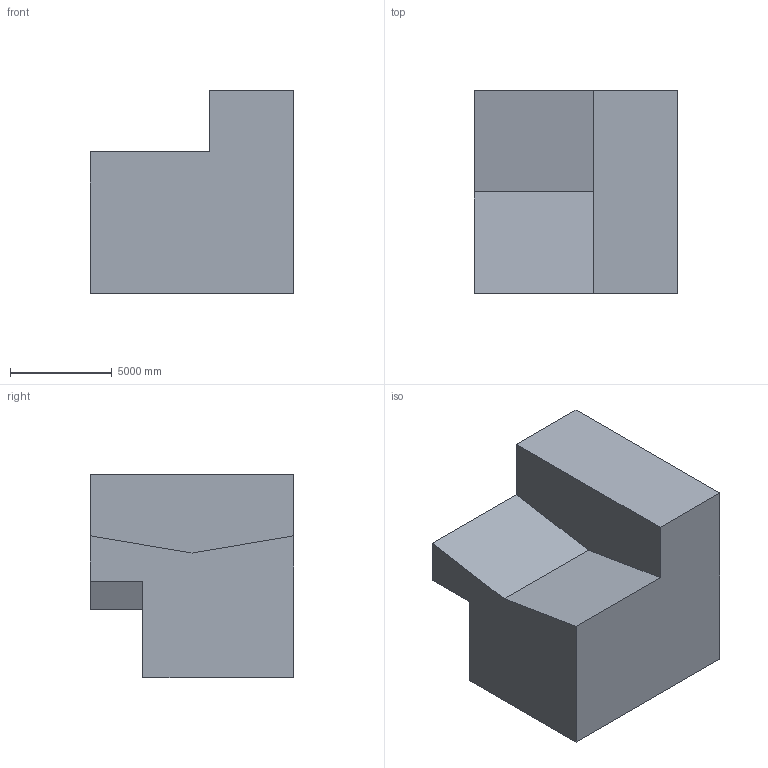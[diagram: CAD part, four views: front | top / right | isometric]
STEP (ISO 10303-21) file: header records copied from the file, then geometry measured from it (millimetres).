
FILE_DESCRIPTION (( 'STEP AP203' ), '1' );
FILE_NAME ('210.STEP', '2022-07-28T13:54:54', ( 'user' ), ( '' ), 'SwSTEP 2.0', 'SolidWorks 2021', '' );
FILE_SCHEMA (( 'CONFIG_CONTROL_DESIGN' ));
Length unit declared in the file: centimetre
Products named in the file (1): 210
Bounding box: 10000 x 10000 x 10000 mm (x, y, z)
Volume: 679537998465.1 mm3; surface area: 558046269.2 mm2
Topology: 1 solids, 1 shells, 15 faces, 39 edges, 26 vertices
Faces by surface type: plane 15
Entity records: 530 total; most frequent: CARTESIAN_POINT 81, ORIENTED_EDGE 78, DIRECTION 71, EDGE_CURVE 39, LINE 39, VECTOR 39, VERTEX_POINT 26, AXIS2_PLACEMENT_3D 16
